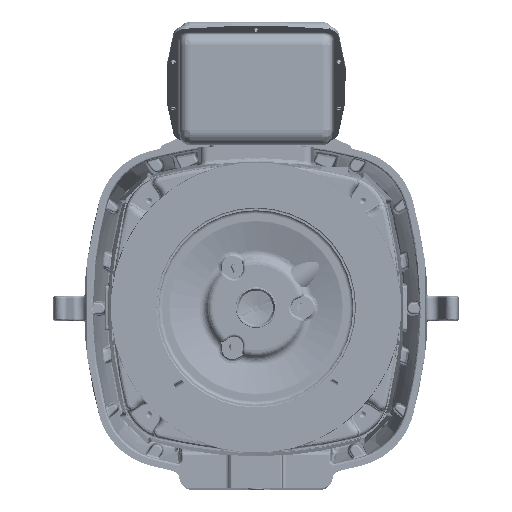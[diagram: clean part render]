
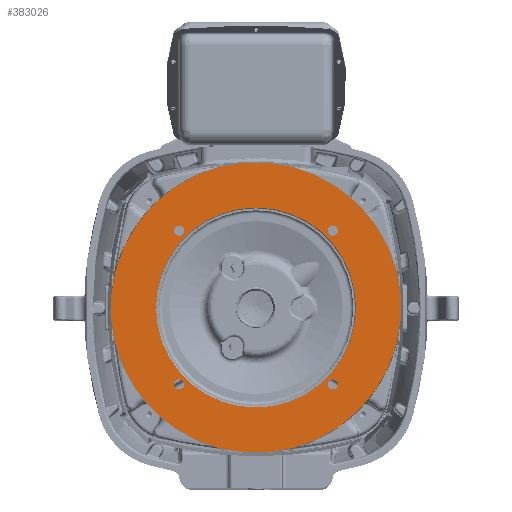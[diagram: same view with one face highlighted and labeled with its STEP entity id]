
A CAD part, top view. The second image highlights one B-rep face of the part: STEP entity #383026.
In plain terms, the highlighted planar face has unit normal (0, 0, 1) as drawn and (0, 0, -1) by its records, which use the part's own axes.
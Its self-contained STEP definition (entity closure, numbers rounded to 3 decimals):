
#355876=CARTESIAN_POINT('',(0.,0.,-5.765));
#355877=DIRECTION('',(0.,0.,-1.));
#355878=DIRECTION('',(0.707,0.707,0.));
#355879=AXIS2_PLACEMENT_3D('',#355876,#355877,#355878);
#355881=CARTESIAN_POINT('',(0.,0.,-5.765));
#355882=DIRECTION('',(0.,0.,-1.));
#355883=DIRECTION('',(-0.707,-0.707,0.));
#355884=AXIS2_PLACEMENT_3D('',#355881,#355882,#355883);
#355886=CARTESIAN_POINT('',(5.215,5.215,-5.765));
#355887=DIRECTION('',(0.,0.,1.));
#355888=DIRECTION('',(1.,0.,0.));
#355889=AXIS2_PLACEMENT_3D('',#355886,#355887,#355888);
#355891=CARTESIAN_POINT('',(5.215,5.215,-5.765));
#355892=DIRECTION('',(0.,0.,1.));
#355893=DIRECTION('',(-1.,0.,0.));
#355894=AXIS2_PLACEMENT_3D('',#355891,#355892,#355893);
#355896=CARTESIAN_POINT('',(-5.215,5.215,-5.765));
#355897=DIRECTION('',(0.,0.,1.));
#355898=DIRECTION('',(0.,1.,0.));
#355899=AXIS2_PLACEMENT_3D('',#355896,#355897,#355898);
#355901=CARTESIAN_POINT('',(-5.215,5.215,-5.765));
#355902=DIRECTION('',(0.,0.,1.));
#355903=DIRECTION('',(0.,-1.,0.));
#355904=AXIS2_PLACEMENT_3D('',#355901,#355902,#355903);
#355906=CARTESIAN_POINT('',(-5.215,-5.215,-5.765));
#355907=DIRECTION('',(0.,0.,1.));
#355908=DIRECTION('',(-1.,0.,0.));
#355909=AXIS2_PLACEMENT_3D('',#355906,#355907,#355908);
#355911=CARTESIAN_POINT('',(-5.215,-5.215,-5.765));
#355912=DIRECTION('',(0.,0.,1.));
#355913=DIRECTION('',(1.,0.,0.));
#355914=AXIS2_PLACEMENT_3D('',#355911,#355912,#355913);
#355916=CARTESIAN_POINT('',(5.215,-5.215,-5.765));
#355917=DIRECTION('',(0.,0.,1.));
#355918=DIRECTION('',(0.,-1.,0.));
#355919=AXIS2_PLACEMENT_3D('',#355916,#355917,#355918);
#355921=CARTESIAN_POINT('',(5.215,-5.215,-5.765));
#355922=DIRECTION('',(0.,0.,1.));
#355923=DIRECTION('',(0.,1.,0.));
#355924=AXIS2_PLACEMENT_3D('',#355921,#355922,#355923);
#355934=CARTESIAN_POINT('',(0.,0.,-5.765));
#355935=DIRECTION('',(0.,0.,-1.));
#355936=DIRECTION('',(0.,-1.,0.));
#355937=AXIS2_PLACEMENT_3D('',#355934,#355935,#355936);
#355939=CARTESIAN_POINT('',(0.,0.,-5.765));
#355940=DIRECTION('',(0.,0.,1.));
#355941=DIRECTION('',(0.,-1.,0.));
#355942=AXIS2_PLACEMENT_3D('',#355939,#355940,#355941);
#376023=CARTESIAN_POINT('',(0.,-6.781,-5.765));
#376024=VERTEX_POINT('',#376023);
#376027=CARTESIAN_POINT('',(0.,6.781,-5.765));
#376028=VERTEX_POINT('',#376027);
#376259=CARTESIAN_POINT('',(5.559,5.215,-5.765));
#376260=CARTESIAN_POINT('',(4.871,5.215,-5.765));
#376261=VERTEX_POINT('',#376259);
#376262=VERTEX_POINT('',#376260);
#376923=CARTESIAN_POINT('',(-5.215,5.559,-5.765));
#376925=VERTEX_POINT('',#376923);
#376927=CARTESIAN_POINT('',(-5.215,4.871,-5.765));
#376929=VERTEX_POINT('',#376927);
#376931=CARTESIAN_POINT('',(-5.559,-5.215,-5.765));
#376933=VERTEX_POINT('',#376931);
#376935=CARTESIAN_POINT('',(-4.871,-5.215,-5.765));
#376937=VERTEX_POINT('',#376935);
#376939=CARTESIAN_POINT('',(5.215,-5.559,-5.765));
#376941=VERTEX_POINT('',#376939);
#376943=CARTESIAN_POINT('',(5.215,-4.871,-5.765));
#376945=VERTEX_POINT('',#376943);
#378266=CARTESIAN_POINT('',(6.968,6.968,-5.765));
#378267=CARTESIAN_POINT('',(-6.968,-6.968,-5.765));
#378268=VERTEX_POINT('',#378266);
#378269=VERTEX_POINT('',#378267);
#382986=CARTESIAN_POINT('',(0.,0.,-5.765));
#382987=DIRECTION('',(0.,0.,1.));
#382988=DIRECTION('',(0.,-1.,0.));
#382989=AXIS2_PLACEMENT_3D('',#382986,#382987,#382988);
#382990=PLANE('',#382989);
#382992=ORIENTED_EDGE('',*,*,#382991,.F.);
#382993=ORIENTED_EDGE('',*,*,#382976,.F.);
#382994=EDGE_LOOP('',(#382992,#382993));
#382995=FACE_OUTER_BOUND('',#382994,.F.);
#382997=ORIENTED_EDGE('',*,*,#382996,.T.);
#382999=ORIENTED_EDGE('',*,*,#382998,.F.);
#383000=EDGE_LOOP('',(#382997,#382999));
#383001=FACE_BOUND('',#383000,.F.);
#383003=ORIENTED_EDGE('',*,*,#383002,.F.);
#383005=ORIENTED_EDGE('',*,*,#383004,.F.);
#383006=EDGE_LOOP('',(#383003,#383005));
#383007=FACE_BOUND('',#383006,.F.);
#383009=ORIENTED_EDGE('',*,*,#383008,.F.);
#383011=ORIENTED_EDGE('',*,*,#383010,.F.);
#383012=EDGE_LOOP('',(#383009,#383011));
#383013=FACE_BOUND('',#383012,.F.);
#383015=ORIENTED_EDGE('',*,*,#383014,.F.);
#383017=ORIENTED_EDGE('',*,*,#383016,.F.);
#383018=EDGE_LOOP('',(#383015,#383017));
#383019=FACE_BOUND('',#383018,.F.);
#383021=ORIENTED_EDGE('',*,*,#383020,.F.);
#383023=ORIENTED_EDGE('',*,*,#383022,.F.);
#383024=EDGE_LOOP('',(#383021,#383023));
#383025=FACE_BOUND('',#383024,.F.);
#383026=ADVANCED_FACE('',(#382995,#383001,#383007,#383013,#383019,#383025),
#382990,.F.);
#355880=CIRCLE('',#355879,9.854);
#355885=CIRCLE('',#355884,9.854);
#355890=CIRCLE('',#355889,0.344);
#355895=CIRCLE('',#355894,0.344);
#355900=CIRCLE('',#355899,0.344);
#355905=CIRCLE('',#355904,0.344);
#355910=CIRCLE('',#355909,0.344);
#355915=CIRCLE('',#355914,0.344);
#355920=CIRCLE('',#355919,0.344);
#355925=CIRCLE('',#355924,0.344);
#355938=CIRCLE('',#355937,6.781);
#355943=CIRCLE('',#355942,6.781);
#382976=EDGE_CURVE('',#378269,#378268,#355885,.T.);
#382991=EDGE_CURVE('',#378268,#378269,#355880,.T.);
#382996=EDGE_CURVE('',#376024,#376028,#355938,.T.);
#382998=EDGE_CURVE('',#376024,#376028,#355943,.T.);
#383002=EDGE_CURVE('',#376261,#376262,#355890,.T.);
#383004=EDGE_CURVE('',#376262,#376261,#355895,.T.);
#383008=EDGE_CURVE('',#376925,#376929,#355900,.T.);
#383010=EDGE_CURVE('',#376929,#376925,#355905,.T.);
#383014=EDGE_CURVE('',#376933,#376937,#355910,.T.);
#383016=EDGE_CURVE('',#376937,#376933,#355915,.T.);
#383020=EDGE_CURVE('',#376941,#376945,#355920,.T.);
#383022=EDGE_CURVE('',#376945,#376941,#355925,.T.);
